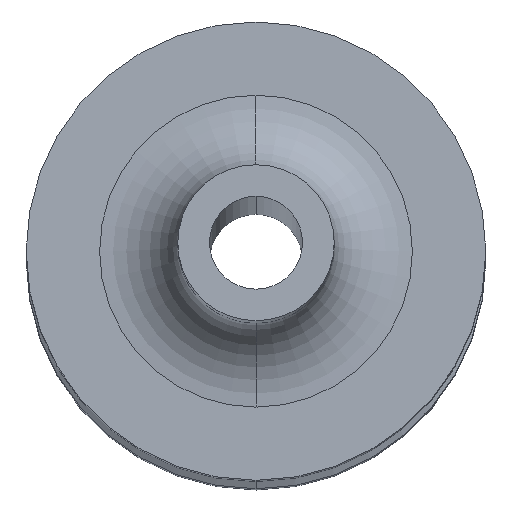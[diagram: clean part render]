
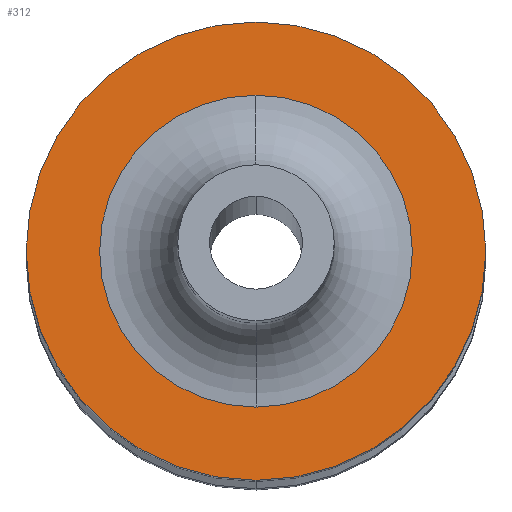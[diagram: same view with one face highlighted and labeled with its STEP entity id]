
A CAD part, left-side view. The second image highlights one B-rep face of the part: STEP entity #312.
In plain terms, the highlighted planar face has unit normal (-0.997, 0, 0.077).
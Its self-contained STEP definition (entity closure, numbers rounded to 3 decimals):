
#49=CARTESIAN_POINT('',(1259.479,0.,90.055));
#50=DIRECTION('',(0.997,0.,-0.077));
#51=DIRECTION('',(-0.077,0.,-0.997));
#52=AXIS2_PLACEMENT_3D('',#49,#50,#51);
#54=CARTESIAN_POINT('',(1259.479,0.,90.055));
#55=DIRECTION('',(-0.997,0.,0.077));
#56=DIRECTION('',(-0.077,0.,-0.997));
#57=AXIS2_PLACEMENT_3D('',#54,#55,#56);
#59=CARTESIAN_POINT('',(1259.479,0.,90.055));
#60=DIRECTION('',(0.997,0.,-0.077));
#61=DIRECTION('',(0.077,0.,0.997));
#62=AXIS2_PLACEMENT_3D('',#59,#60,#61);
#64=CARTESIAN_POINT('',(1259.479,0.,90.055));
#65=DIRECTION('',(0.997,0.,-0.077));
#66=DIRECTION('',(-0.077,0.,-0.997));
#67=AXIS2_PLACEMENT_3D('',#64,#65,#66);
#201=CARTESIAN_POINT('',(1258.343,0.,75.403));
#202=VERTEX_POINT('',#201);
#213=CARTESIAN_POINT('',(1260.615,0.,104.707));
#214=VERTEX_POINT('',#213);
#219=CARTESIAN_POINT('',(1260.252,0.,
100.025));
#220=CARTESIAN_POINT('',(1258.706,0.,80.085));
#221=VERTEX_POINT('',#219);
#222=VERTEX_POINT('',#220);
#297=CARTESIAN_POINT('',(1259.479,0.,90.055));
#298=DIRECTION('',(-0.997,0.,0.077));
#299=DIRECTION('',(-0.077,0.,-0.997));
#300=AXIS2_PLACEMENT_3D('',#297,#298,#299);
#301=PLANE('',#300);
#303=ORIENTED_EDGE('',*,*,#302,.T.);
#305=ORIENTED_EDGE('',*,*,#304,.F.);
#306=EDGE_LOOP('',(#303,#305));
#307=FACE_OUTER_BOUND('',#306,.F.);
#308=ORIENTED_EDGE('',*,*,#279,.F.);
#309=ORIENTED_EDGE('',*,*,#264,.F.);
#310=EDGE_LOOP('',(#308,#309));
#311=FACE_BOUND('',#310,.F.);
#312=ADVANCED_FACE('',(#307,#311),#301,.T.);
#53=CIRCLE('',#52,14.696);
#58=CIRCLE('',#57,14.696);
#63=CIRCLE('',#62,10.);
#68=CIRCLE('',#67,10.);
#264=EDGE_CURVE('',#222,#221,#68,.T.);
#279=EDGE_CURVE('',#221,#222,#63,.T.);
#302=EDGE_CURVE('',#202,#214,#53,.T.);
#304=EDGE_CURVE('',#202,#214,#58,.T.);
